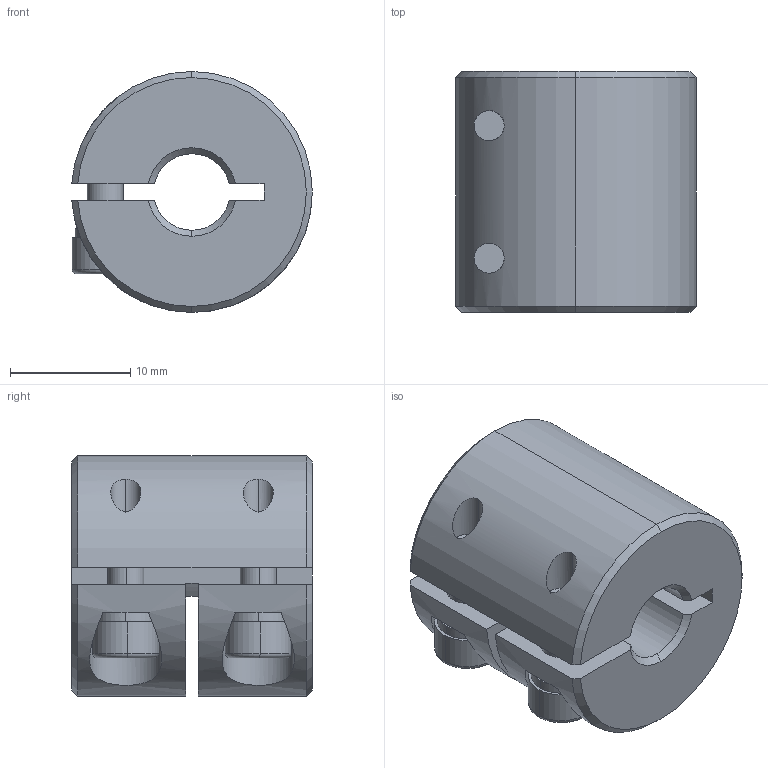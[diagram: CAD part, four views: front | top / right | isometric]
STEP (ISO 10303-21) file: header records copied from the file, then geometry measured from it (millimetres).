
FILE_DESCRIPTION (( 'STEP AP203' ), '1' );
FILE_NAME ('LL-B-D20L20-6.35-8.STEP', '2021-11-03T05:27:47', ( '' ), ( '' ), 'SwSTEP 2.0', 'SolidWorks 2018', '' );
FILE_SCHEMA (( 'CONFIG_CONTROL_DESIGN' ));
Length unit declared in the file: millimetre
Products named in the file (1): LL-B-D20L20-6.35-8
Bounding box: 19.98 x 20 x 20 mm (x, y, z)
Volume: 4989.4 mm3; surface area: 3122 mm2
Topology: 1 solids, 1 shells, 115 faces, 298 edges, 187 vertices
Faces by surface type: plane 53, cylinder 42, cone 16, torus 4
Entity records: 3764 total; most frequent: CARTESIAN_POINT 831, DIRECTION 625, ORIENTED_EDGE 588, EDGE_CURVE 294, AXIS2_PLACEMENT_3D 241, VERTEX_POINT 187, VECTOR 143, LINE 143
